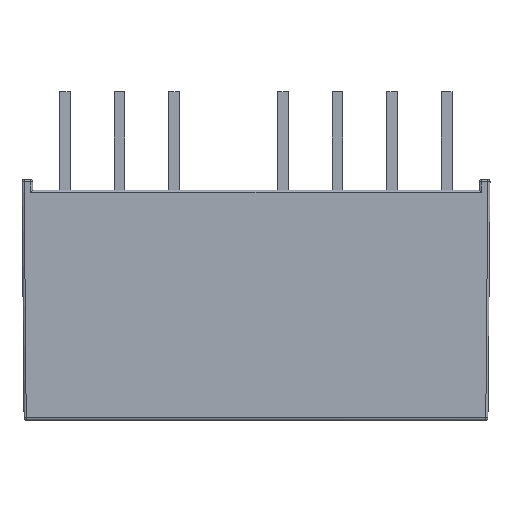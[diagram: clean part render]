
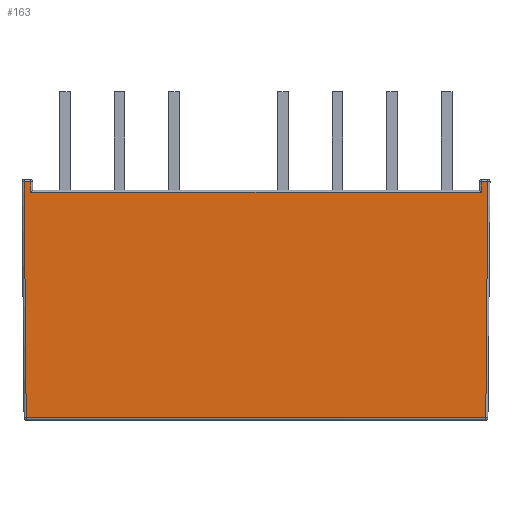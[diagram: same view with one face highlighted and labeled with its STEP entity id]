
A CAD part, top view. The second image highlights one B-rep face of the part: STEP entity #163.
In plain terms, the highlighted planar face has unit normal (0, -0.009, 1).
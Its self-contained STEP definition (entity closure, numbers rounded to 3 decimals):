
#163=ADVANCED_FACE('NONE',(#380),#381,.T.);
#380=FACE_OUTER_BOUND('',#642,.T.);
#381=PLANE('',#643);
#642=EDGE_LOOP('',(#1056,#1057,#1058,#1059,#1060,#1061,#1062,#1063));
#643=AXIS2_PLACEMENT_3D('',#1064,#1065,#1066);
#1056=ORIENTED_EDGE('',*,*,#1584,.T.);
#1057=ORIENTED_EDGE('',*,*,#1570,.T.);
#1058=ORIENTED_EDGE('',*,*,#1591,.T.);
#1059=ORIENTED_EDGE('',*,*,#1626,.T.);
#1060=ORIENTED_EDGE('',*,*,#1627,.T.);
#1061=ORIENTED_EDGE('',*,*,#1628,.T.);
#1062=ORIENTED_EDGE('',*,*,#1629,.T.);
#1063=ORIENTED_EDGE('',*,*,#1630,.T.);
#1064=CARTESIAN_POINT('',(-55.384,0.0,-10.339));
#1065=DIRECTION('',(0.0,-0.009,1.));
#1066=DIRECTION('',(-1.0,0.0,0.0));
#1570=EDGE_CURVE('NONE',#1890,#1891,#1892,.T.);
#1584=EDGE_CURVE('NONE',#1913,#1890,#1914,.T.);
#1591=EDGE_CURVE('NONE',#1891,#1922,#1924,.T.);
#1626=EDGE_CURVE('NONE',#1922,#1967,#1968,.T.);
#1627=EDGE_CURVE('NONE',#1967,#1969,#1970,.T.);
#1628=EDGE_CURVE('NONE',#1969,#1886,#1971,.T.);
#1629=EDGE_CURVE('NONE',#1886,#1972,#1973,.T.);
#1630=EDGE_CURVE('NONE',#1972,#1913,#1974,.T.);
#1886=VERTEX_POINT('NONE',#2308);
#1890=VERTEX_POINT('NONE',#2312);
#1891=VERTEX_POINT('NONE',#2313);
#1892=LINE('',#2314,#2315);
#1913=VERTEX_POINT('NONE',#2341);
#1914=LINE('',#2342,#2343);
#1922=VERTEX_POINT('NONE',#2353);
#1924=LINE('',#2365,#2366);
#1967=VERTEX_POINT('NONE',#2436);
#1968=LINE('',#2437,#2438);
#1969=VERTEX_POINT('NONE',#2439);
#1970=LINE('',#2440,#2441);
#1971=LINE('',#2442,#2443);
#1972=VERTEX_POINT('NONE',#2444);
#1973=LINE('',#2445,#2446);
#1974=LINE('',#2447,#2448);
#2308=CARTESIAN_POINT('',(-55.283,-0.1,-10.34));
#2312=CARTESIAN_POINT('',(-33.685,-0.1,-10.34));
#2313=CARTESIAN_POINT('',(-33.984,-0.1,-10.34));
#2314=CARTESIAN_POINT('',(-55.384,-0.101,-10.34));
#2315=VECTOR('',#2731,1000.0);
#2341=CARTESIAN_POINT('',(-33.781,-11.1,-10.436));
#2342=CARTESIAN_POINT('',(-33.686,-0.189,-10.341));
#2343=VECTOR('',#2752,1000.0);
#2353=CARTESIAN_POINT('',(-33.985,-0.6,-10.345));
#2365=CARTESIAN_POINT('',(-33.984,-0.5,-10.344));
#2366=VECTOR('',#2761,1000.0);
#2436=CARTESIAN_POINT('',(-54.984,-0.6,-10.345));
#2437=CARTESIAN_POINT('',(-55.384,-0.601,-10.345));
#2438=VECTOR('',#2794,1000.0);
#2439=CARTESIAN_POINT('',(-54.984,-0.1,-10.34));
#2440=CARTESIAN_POINT('',(-54.984,0.,-10.339));
#2441=VECTOR('',#2795,1000.0);
#2442=CARTESIAN_POINT('',(-55.384,-0.101,-10.34));
#2443=VECTOR('',#2796,1000.0);
#2444=CARTESIAN_POINT('',(-55.187,-11.101,-10.436));
#2445=CARTESIAN_POINT('',(-55.284,0.001,-10.339));
#2446=VECTOR('',#2797,1000.0);
#2447=CARTESIAN_POINT('',(-33.682,-11.101,-10.436));
#2448=VECTOR('',#2798,1000.0);
#2731=DIRECTION('',(-1.0,-0.0,-0.0));
#2752=DIRECTION('',(0.009,1.,0.009));
#2761=DIRECTION('',(-0.0,-1.,-0.009));
#2794=DIRECTION('',(-1.0,0.0,0.0));
#2795=DIRECTION('',(-0.0,1.,0.009));
#2796=DIRECTION('',(-1.0,-0.0,-0.0));
#2797=DIRECTION('',(0.009,-1.,-0.009));
#2798=DIRECTION('',(1.0,0.0,0.0));
